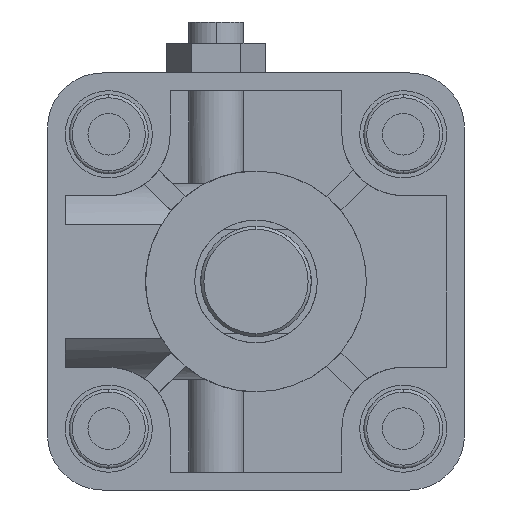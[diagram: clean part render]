
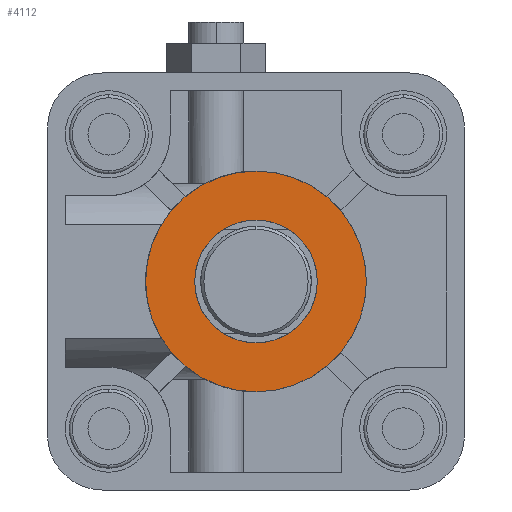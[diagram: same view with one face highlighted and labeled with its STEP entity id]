
A CAD part, left-side view. The second image highlights one B-rep face of the part: STEP entity #4112.
In plain terms, the highlighted planar face has unit normal (-1, 0, 0) as drawn and (1, 0, 0) by its records, which use the part's own axes.
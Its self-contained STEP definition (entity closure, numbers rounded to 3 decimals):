
#95 = AXIS2_PLACEMENT_3D ( 'NONE', #5052, #1525, #930 ) ;
#310 = PLANE ( 'NONE',  #95 ) ;
#704 = DIRECTION ( 'NONE',  ( 0., 0., 1. ) ) ;
#854 = CARTESIAN_POINT ( 'NONE',  ( 26., 0., -10. ) ) ;
#930 = DIRECTION ( 'NONE',  ( 0., 0., 1. ) ) ;
#1432 = VERTEX_POINT ( 'NONE', #4340 ) ;
#1491 = VERTEX_POINT ( 'NONE', #5445 ) ;
#1525 = DIRECTION ( 'NONE',  ( -1., 0., 0. ) ) ;
#1528 = EDGE_CURVE ( 'NONE', #1705, #1491, #4083, .T. ) ;
#1705 = VERTEX_POINT ( 'NONE', #854 ) ;
#1976 = FACE_BOUND ( 'NONE', #4641, .T. ) ;
#2627 = AXIS2_PLACEMENT_3D ( 'NONE', #5906, #6079, #7597 ) ;
#3412 = CARTESIAN_POINT ( 'NONE',  ( 26., 0., 0. ) ) ;
#3812 = FACE_OUTER_BOUND ( 'NONE', #4495, .T. ) ;
#4057 = CIRCLE ( 'NONE', #2627, 18. ) ;
#4083 = CIRCLE ( 'NONE', #6872, 10. ) ;
#4112 = ADVANCED_FACE ( 'NONE', ( #3812, #1976 ), #310, .F. ) ;
#4242 = EDGE_CURVE ( 'NONE', #1491, #1705, #8418, .T. ) ;
#4306 = DIRECTION ( 'NONE',  ( -1., 0., 0. ) ) ;
#4340 = CARTESIAN_POINT ( 'NONE',  ( 26., 0., 18. ) ) ;
#4487 = ORIENTED_EDGE ( 'NONE', *, *, #7138, .F. ) ;
#4495 = EDGE_LOOP ( 'NONE', ( #9338, #4487 ) ) ;
#4618 = CARTESIAN_POINT ( 'NONE',  ( 26., 0., 0. ) ) ;
#4641 = EDGE_LOOP ( 'NONE', ( #7060, #9454 ) ) ;
#4861 = CARTESIAN_POINT ( 'NONE',  ( 26., 0., -18. ) ) ;
#4899 = AXIS2_PLACEMENT_3D ( 'NONE', #9483, #7124, #9314 ) ;
#5052 = CARTESIAN_POINT ( 'NONE',  ( 26., 10., 0. ) ) ;
#5428 = VERTEX_POINT ( 'NONE', #4861 ) ;
#5445 = CARTESIAN_POINT ( 'NONE',  ( 26., 0., 10. ) ) ;
#5692 = DIRECTION ( 'NONE',  ( 0., 0., 1. ) ) ;
#5906 = CARTESIAN_POINT ( 'NONE',  ( 26., 0., 0. ) ) ;
#6079 = DIRECTION ( 'NONE',  ( -1., 0., 0. ) ) ;
#6681 = EDGE_CURVE ( 'NONE', #1432, #5428, #7154, .T. ) ;
#6736 = AXIS2_PLACEMENT_3D ( 'NONE', #4618, #4306, #5692 ) ;
#6872 = AXIS2_PLACEMENT_3D ( 'NONE', #3412, #8966, #704 ) ;
#7060 = ORIENTED_EDGE ( 'NONE', *, *, #4242, .T. ) ;
#7124 = DIRECTION ( 'NONE',  ( -1., 0., 0. ) ) ;
#7138 = EDGE_CURVE ( 'NONE', #5428, #1432, #4057, .T. ) ;
#7154 = CIRCLE ( 'NONE', #4899, 18. ) ;
#7597 = DIRECTION ( 'NONE',  ( 0., 0., 1. ) ) ;
#8418 = CIRCLE ( 'NONE', #6736, 10. ) ;
#8966 = DIRECTION ( 'NONE',  ( -1., 0., 0. ) ) ;
#9314 = DIRECTION ( 'NONE',  ( 0., 0., 1. ) ) ;
#9338 = ORIENTED_EDGE ( 'NONE', *, *, #6681, .F. ) ;
#9454 = ORIENTED_EDGE ( 'NONE', *, *, #1528, .T. ) ;
#9483 = CARTESIAN_POINT ( 'NONE',  ( 26., 0., 0. ) ) ;
